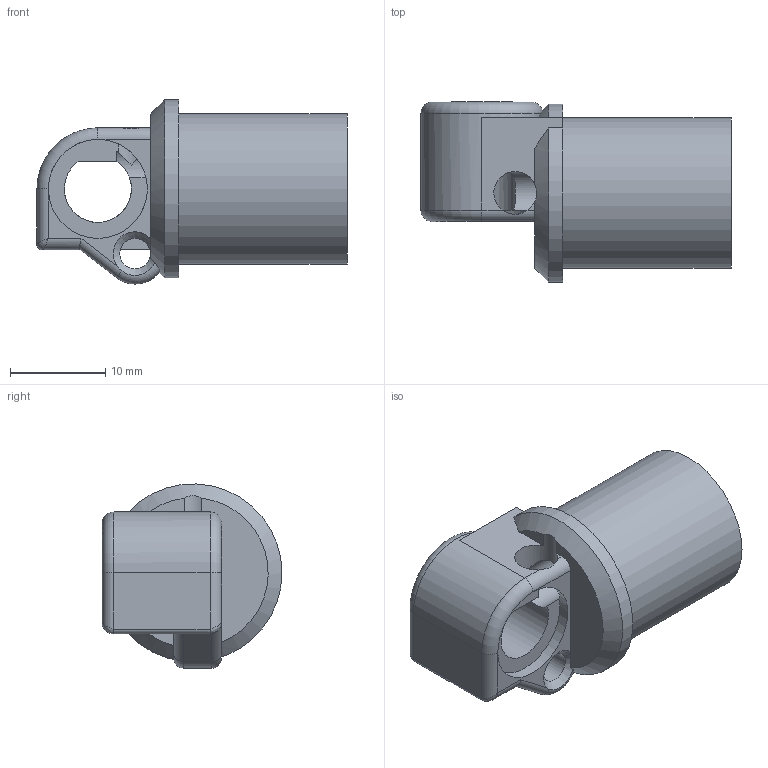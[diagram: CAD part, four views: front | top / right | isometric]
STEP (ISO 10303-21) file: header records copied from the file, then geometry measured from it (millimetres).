
FILE_DESCRIPTION(('Open CASCADE Model'),'2;1');
FILE_NAME('Open CASCADE Shape Model','2026-11-11T07:15:39',('Author'),( 'Open CASCADE'),'Open CASCADE STEP processor 8.0','build123d', 'Unknown');
FILE_SCHEMA(('AUTOMOTIVE_DESIGN { 1 0 10303 214 1 1 1 1 }'));
Length unit declared in the file: millimetre
Products named in the file (1): COMPOUND
Bounding box: 32.57 x 18.9 x 19.34 mm (x, y, z)
Volume: 3561.6 mm3; surface area: 3082.5 mm2
Topology: 1 solids, 1 shells, 59 faces, 172 edges, 109 vertices
Faces by surface type: plane 25, cylinder 24, cone 4, torus 4, bspline 2
Full cylindrical faces by diameter (mm): 3.2 x1, 4.5 x2, 10.4 x1, 15.8 x1
Entity records: 5349 total; most frequent: CARTESIAN_POINT 2121, DIRECTION 574, ORIENTED_EDGE 340, PCURVE 340, DEFINITIONAL_REPRESENTATION 340, LINE 302, VECTOR 302, EDGE_CURVE 170
